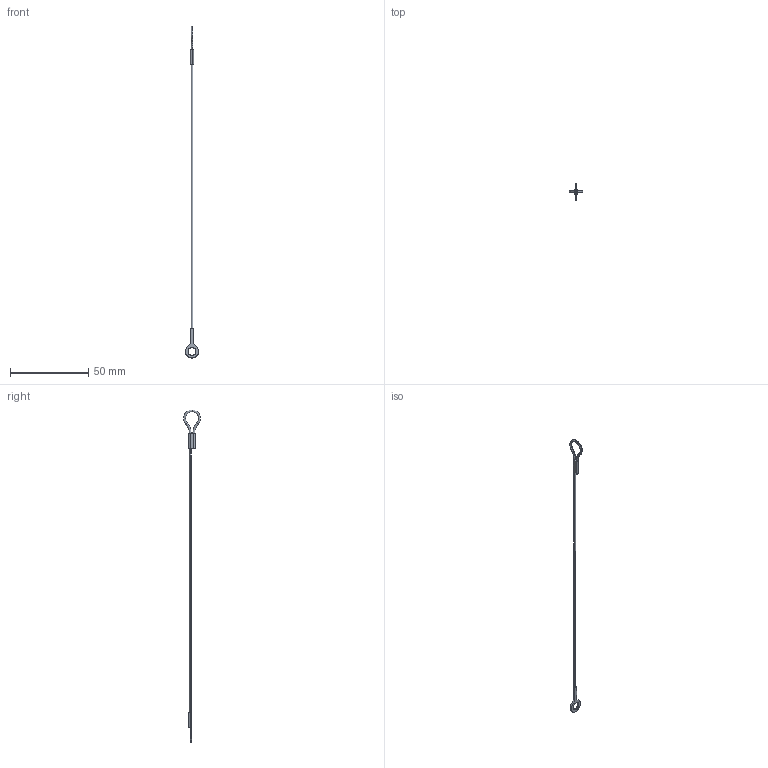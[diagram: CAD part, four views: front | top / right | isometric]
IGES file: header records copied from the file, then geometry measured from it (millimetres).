
Start section: SolidWorks IGES file using analytic representation for surfaces
Global section: file name: C:\Users\ianosborn\Desktop\LA1075_v2\LA1075_v2_20260320_IGES\LA1075.I04-203N1.igs; native system: SolidWorks 2019; preprocessor: SolidWorks 2019; author: IanOsborn; date: 260323.164133; units: millimetre
Bounding box: 8.37 x 10.76 x 212.78 mm (x, y, z)
Surface area: 1077.8 mm2 (no closed solid volume)
Topology: 0 solids, 0 shells, 30 faces, 389 edges, 389 vertices
Faces by surface type: bspline 20, revolution 10
